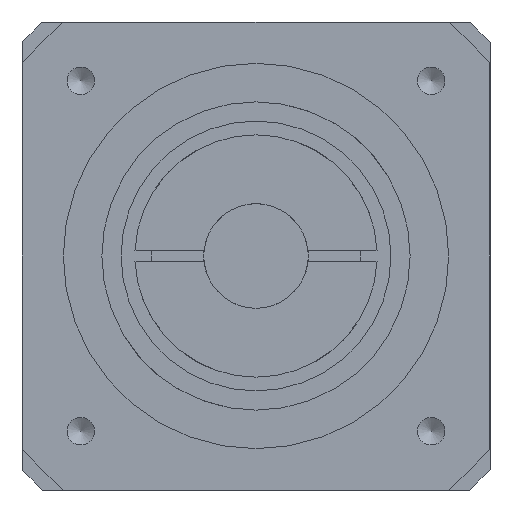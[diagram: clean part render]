
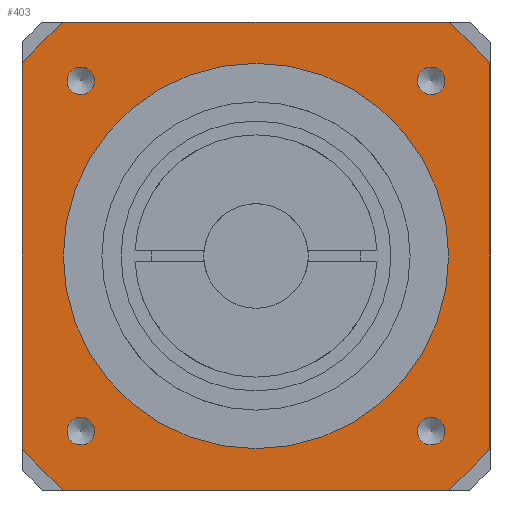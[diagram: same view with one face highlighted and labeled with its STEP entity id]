
A CAD part, left-side view. The second image highlights one B-rep face of the part: STEP entity #403.
In plain terms, the highlighted planar face has unit normal (-1, 0, 0).
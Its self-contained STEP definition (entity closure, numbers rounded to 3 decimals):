
#167=PLANE('',#2295);
#218=LINE('',#3766,#292);
#219=LINE('',#3771,#293);
#220=LINE('',#3775,#294);
#221=LINE('',#3779,#295);
#292=VECTOR('',#2606,1.);
#293=VECTOR('',#2609,1.);
#294=VECTOR('',#2612,1.);
#295=VECTOR('',#2615,1.);
#403=ADVANCED_FACE('',(#791,#792,#793,#794,#795,#796),#167,.F.);
#628=CIRCLE('',#2256,2.5);
#630=CIRCLE('',#2260,2.5);
#632=CIRCLE('',#2264,2.5);
#634=CIRCLE('',#2268,2.5);
#638=CIRCLE('',#2279,35.);
#646=CIRCLE('',#2291,55.);
#647=CIRCLE('',#2292,55.);
#648=CIRCLE('',#2293,55.);
#649=CIRCLE('',#2294,55.);
#791=FACE_BOUND('',#1042,.T.);
#792=FACE_BOUND('',#1043,.T.);
#793=FACE_BOUND('',#1044,.T.);
#794=FACE_BOUND('',#1045,.T.);
#795=FACE_BOUND('',#1046,.T.);
#796=FACE_BOUND('',#1047,.T.);
#1042=EDGE_LOOP('',(#1334));
#1043=EDGE_LOOP('',(#1335));
#1044=EDGE_LOOP('',(#1336));
#1045=EDGE_LOOP('',(#1337));
#1046=EDGE_LOOP('',(#1338));
#1047=EDGE_LOOP('',(#1339,#1340,#1341,#1342,#1343,#1344,#1345,#1346));
#1334=ORIENTED_EDGE('',*,*,#1970,.F.);
#1335=ORIENTED_EDGE('',*,*,#1972,.F.);
#1336=ORIENTED_EDGE('',*,*,#1974,.F.);
#1337=ORIENTED_EDGE('',*,*,#1976,.F.);
#1338=ORIENTED_EDGE('',*,*,#1988,.T.);
#1339=ORIENTED_EDGE('',*,*,#1996,.T.);
#1340=ORIENTED_EDGE('',*,*,#1997,.F.);
#1341=ORIENTED_EDGE('',*,*,#1998,.T.);
#1342=ORIENTED_EDGE('',*,*,#1999,.F.);
#1343=ORIENTED_EDGE('',*,*,#2000,.T.);
#1344=ORIENTED_EDGE('',*,*,#2001,.F.);
#1345=ORIENTED_EDGE('',*,*,#2002,.T.);
#1346=ORIENTED_EDGE('',*,*,#2003,.F.);
#1768=VERTEX_POINT('',#3205);
#1771=VERTEX_POINT('',#3212);
#1774=VERTEX_POINT('',#3219);
#1777=VERTEX_POINT('',#3226);
#1790=VERTEX_POINT('',#3747);
#1798=VERTEX_POINT('',#3767);
#1799=VERTEX_POINT('',#3768);
#1800=VERTEX_POINT('',#3770);
#1801=VERTEX_POINT('',#3772);
#1802=VERTEX_POINT('',#3774);
#1803=VERTEX_POINT('',#3776);
#1804=VERTEX_POINT('',#3778);
#1805=VERTEX_POINT('',#3780);
#1970=EDGE_CURVE('',#1768,#1768,#628,.T.);
#1972=EDGE_CURVE('',#1771,#1771,#630,.T.);
#1974=EDGE_CURVE('',#1774,#1774,#632,.T.);
#1976=EDGE_CURVE('',#1777,#1777,#634,.T.);
#1988=EDGE_CURVE('',#1790,#1790,#638,.T.);
#1996=EDGE_CURVE('',#1798,#1799,#218,.T.);
#1997=EDGE_CURVE('',#1800,#1799,#646,.T.);
#1998=EDGE_CURVE('',#1800,#1801,#219,.T.);
#1999=EDGE_CURVE('',#1802,#1801,#647,.T.);
#2000=EDGE_CURVE('',#1802,#1803,#220,.T.);
#2001=EDGE_CURVE('',#1804,#1803,#648,.T.);
#2002=EDGE_CURVE('',#1804,#1805,#221,.T.);
#2003=EDGE_CURVE('',#1798,#1805,#649,.T.);
#2256=AXIS2_PLACEMENT_3D('',#3204,#2536,#2537);
#2260=AXIS2_PLACEMENT_3D('',#3211,#2544,#2545);
#2264=AXIS2_PLACEMENT_3D('',#3218,#2552,#2553);
#2268=AXIS2_PLACEMENT_3D('',#3225,#2560,#2561);
#2279=AXIS2_PLACEMENT_3D('',#3746,#2582,#2583);
#2291=AXIS2_PLACEMENT_3D('',#3769,#2607,#2608);
#2292=AXIS2_PLACEMENT_3D('',#3773,#2610,#2611);
#2293=AXIS2_PLACEMENT_3D('',#3777,#2613,#2614);
#2294=AXIS2_PLACEMENT_3D('',#3781,#2616,#2617);
#2295=AXIS2_PLACEMENT_3D('',#3782,#2618,#2619);
#2536=DIRECTION('',(-1.,0.,0.));
#2537=DIRECTION('',(0.,0.,1.));
#2544=DIRECTION('',(-1.,0.,0.));
#2545=DIRECTION('',(0.,0.,1.));
#2552=DIRECTION('',(-1.,0.,0.));
#2553=DIRECTION('',(0.,0.,1.));
#2560=DIRECTION('',(-1.,0.,0.));
#2561=DIRECTION('',(0.,0.,1.));
#2582=DIRECTION('',(1.,0.,0.));
#2583=DIRECTION('',(0.,0.,-1.));
#2606=DIRECTION('',(0.,1.,0.));
#2607=DIRECTION('',(1.,0.,0.));
#2608=DIRECTION('',(0.,0.,-1.));
#2609=DIRECTION('',(0.,0.,-1.));
#2610=DIRECTION('',(1.,0.,0.));
#2611=DIRECTION('',(0.,0.,-1.));
#2612=DIRECTION('',(0.,-1.,0.));
#2613=DIRECTION('',(1.,0.,0.));
#2614=DIRECTION('',(0.,0.,-1.));
#2615=DIRECTION('',(0.,0.,1.));
#2616=DIRECTION('',(1.,0.,0.));
#2617=DIRECTION('',(0.,0.,-1.));
#2618=DIRECTION('',(1.,0.,0.));
#2619=DIRECTION('',(0.,0.,-1.));
#3204=CARTESIAN_POINT('',(-26.,31.82,-31.82));
#3205=CARTESIAN_POINT('',(-26.,31.82,-29.32));
#3211=CARTESIAN_POINT('',(-26.,-31.82,-31.82));
#3212=CARTESIAN_POINT('',(-26.,-31.82,-29.32));
#3218=CARTESIAN_POINT('',(-26.,-31.82,31.82));
#3219=CARTESIAN_POINT('',(-26.,-31.82,34.32));
#3225=CARTESIAN_POINT('',(-26.,31.82,31.82));
#3226=CARTESIAN_POINT('',(-26.,31.82,34.32));
#3746=CARTESIAN_POINT('',(-26.,0.,0.));
#3747=CARTESIAN_POINT('',(-26.,0.,-35.));
#3766=CARTESIAN_POINT('',(-26.,42.5,42.5));
#3767=CARTESIAN_POINT('',(-26.,-34.911,42.5));
#3768=CARTESIAN_POINT('',(-26.,34.911,42.5));
#3769=CARTESIAN_POINT('',(-26.,0.,0.));
#3770=CARTESIAN_POINT('',(-26.,42.5,34.911));
#3771=CARTESIAN_POINT('',(-26.,42.5,-42.5));
#3772=CARTESIAN_POINT('',(-26.,42.5,-34.911));
#3773=CARTESIAN_POINT('',(-26.,0.,0.));
#3774=CARTESIAN_POINT('',(-26.,34.911,-42.5));
#3775=CARTESIAN_POINT('',(-26.,42.5,-42.5));
#3776=CARTESIAN_POINT('',(-26.,-34.911,-42.5));
#3777=CARTESIAN_POINT('',(-26.,0.,0.));
#3778=CARTESIAN_POINT('',(-26.,-42.5,-34.911));
#3779=CARTESIAN_POINT('',(-26.,-42.5,-42.5));
#3780=CARTESIAN_POINT('',(-26.,-42.5,34.911));
#3781=CARTESIAN_POINT('',(-26.,0.,0.));
#3782=CARTESIAN_POINT('',(-26.,55.,0.));
